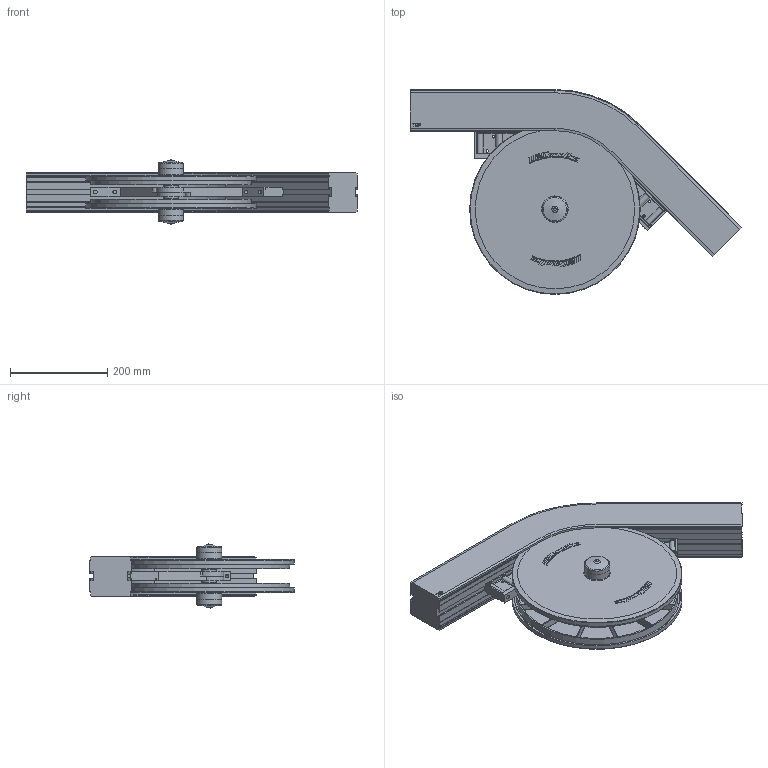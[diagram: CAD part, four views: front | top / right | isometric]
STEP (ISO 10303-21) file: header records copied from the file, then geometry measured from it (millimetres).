
FILE_DESCRIPTION((''),'2;1');
FILE_NAME('C:\Vault Klient\Projekt\Koncept konstruktion\Serie 830 Hjulkurva\830-5030.stp','2009-12-01T15:25:32',('Mathias'),(''),'Autodesk Inventor 2010','Autodesk Inventor 2010','');
FILE_SCHEMA(('CONFIG_CONTROL_DESIGN'));
Length unit declared in the file: millimetre
Products named in the file (5): 830-5030; 830-1000_01; 830-5056; 830-5057; FCWA-0476-025
Assembly tree (7 placements, depth 2):
  830-5030
    830-1000_01
    830-5056  x2
    830-5057  x2
    FCWA-0476-025  x2
Bounding box: 681.46 x 420.5 x 131.93 mm (x, y, z)
Volume: 6445264 mm3; surface area: 1029276.4 mm2
Topology: 7 solids, 7 shells, 1539 faces, 3850 edges, 2386 vertices
Faces by surface type: plane 831, bspline 334, cylinder 236, cone 72, torus 62, sphere 4
Full cylindrical faces by diameter (mm): 6 x16, 29.5 x2, 30 x2, 40 x4, 47.6 x2, 50.3 x2, 51.3 x2, 350 x2
Entity records: 30482 total; most frequent: CARTESIAN_POINT 10658, ORIENTED_EDGE 4136, DIRECTION 3780, EDGE_CURVE 2068, VERTEX_POINT 1326, VECTOR 1280, LINE 1280, AXIS2_PLACEMENT_3D 1250
